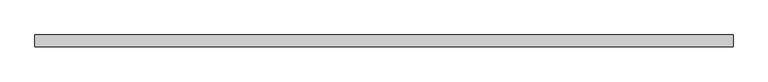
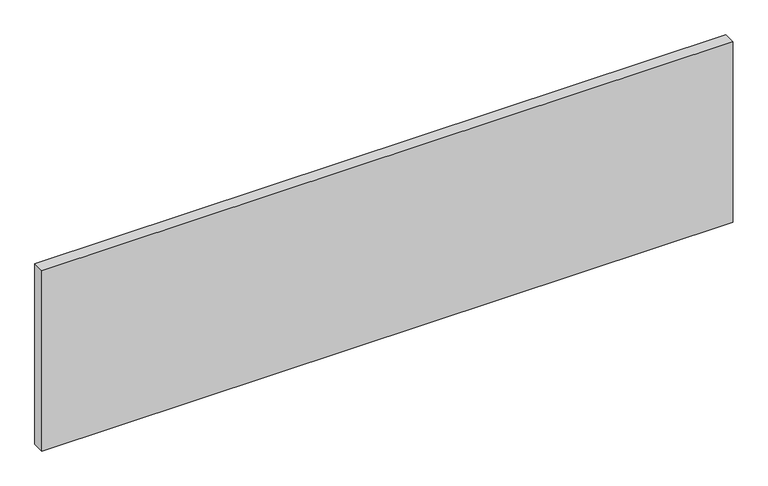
"""IFC4 building model written with IfcOpenShell, lengths in millimetres: plate geometry, Системная панель : С остеклением."""

import ifcopenshell
import ifcopenshell.guid

model = None  # the IFC model being written
_history = None  # IfcOwnerHistory: only IFC2X3 demands one
_inside = {}  # id of a spatial element -> (the spatial element, [elements in it])
_under = {}  # id of a project, library or spatial element -> (it, [spatial elements below it])
_declared = {}  # id of a project -> (the project, [libraries it declares])
_typed = {}  # id of a type object -> (the type object, [elements of that type])
_made_of = {}  # id of a material, layer set ... -> (it, [elements and type objects made of it])


def new_model(schema):
    """Start an empty IFC model of exactly this schema.

    Asked for "IFC4X3", IfcOpenShell would pick the latest addendum, in which some entities
    have other attributes; the version numbers below select the first issue.
    IFC2X3 requires an IfcOwnerHistory on every rooted entity: one is made here for all.
    """
    global model, _history
    if schema == "IFC4X3":
        model = ifcopenshell.file(schema_version=(4, 3, 0, 0))
    else:
        model = ifcopenshell.file(schema=schema)
    _inside.clear()
    _under.clear()
    _declared.clear()
    _typed.clear()
    _made_of.clear()
    _history = None
    if model.schema == "IFC2X3":
        org = make("IfcOrganization", Name="unknown")
        user = make(
            "IfcPersonAndOrganization",
            ThePerson=make("IfcPerson", FamilyName="unknown"),
            TheOrganization=org,
        )
        app = make(
            "IfcApplication",
            ApplicationDeveloper=org,
            Version="unknown",
            ApplicationFullName="unknown",
            ApplicationIdentifier="unknown",
        )
        _history = make(
            "IfcOwnerHistory",
            OwningUser=user,
            OwningApplication=app,
            ChangeAction="ADDED",
            CreationDate=0,
        )
    return model


def make(cls, **values):
    """One entity of the class cls with the attributes given. An attribute that is None is left unset."""
    return model.create_entity(
        cls, **{name: value for name, value in values.items() if value is not None}
    )


def rooted(cls, **values):
    """An entity with a GlobalId (a new one), such as an element, a storey or a relation."""
    return make(cls, GlobalId=ifcopenshell.guid.new(), OwnerHistory=_history, **values)


def si_unit(unit_type, name, prefix=None):
    """IfcSIUnit, for example si_unit("LENGTHUNIT", "METRE", prefix="MILLI")."""
    return make("IfcSIUnit", UnitType=unit_type, Prefix=prefix, Name=name)


def assignment(units):
    """IfcUnitAssignment: the units of a project."""
    return None if units is None else make("IfcUnitAssignment", Units=units)


def point(xyz):
    """IfcCartesianPoint."""
    return None if xyz is None else make("IfcCartesianPoint", Coordinates=xyz)


def direction(xyz):
    """IfcDirection."""
    return None if xyz is None else make("IfcDirection", DirectionRatios=xyz)


def frame(location, z_axis=None, x_axis=None):
    """IfcAxis2Placement3D, a coordinate frame: its origin and axes. An axis left out is left unset."""
    return make(
        "IfcAxis2Placement3D",
        Location=point(location),
        Axis=direction(z_axis),
        RefDirection=direction(x_axis),
    )


def origin():
    """The frame at (0, 0, 0) with its axes left unset."""
    return frame((0.0, 0.0, 0.0))


def origin_with_axes():
    """The frame at (0, 0, 0) with the z axis (0, 0, 1) and the x axis (1, 0, 0) written out."""
    return frame((0.0, 0.0, 0.0), z_axis=(0.0, 0.0, 1.0), x_axis=(1.0, 0.0, 0.0))


def place(relative_to, where):
    """IfcLocalPlacement: puts the frame where relative to a parent placement (None: the world)."""
    return make(
        "IfcLocalPlacement", PlacementRelTo=relative_to, RelativePlacement=where
    )


def context(
    kind, dimensions, precision=None, world=None, true_north=None, identifier=None
):
    """IfcGeometricRepresentationContext, for example the 3D "Model" context."""
    return make(
        "IfcGeometricRepresentationContext",
        ContextIdentifier=identifier,
        ContextType=kind,
        CoordinateSpaceDimension=dimensions,
        Precision=precision,
        WorldCoordinateSystem=world,
        TrueNorth=true_north,
    )


def project(units=None, contexts=None):
    """IfcProject with its units and contexts."""
    return rooted(
        "IfcProject",
        Name="project",
        RepresentationContexts=contexts,
        UnitsInContext=assignment(units),
    )


def spatial(cls, under=None, at=None, **own):
    """A site, building, storey or space (cls), placed at a placement, below another one or the project."""
    s = rooted(cls, ObjectPlacement=at, **own)
    if under is not None:
        _under.setdefault(under.id(), (under, []))[1].append(s)
    return s


def polyline(points):
    """IfcPolyline through the points."""
    return make("IfcPolyline", Points=[point(p) for p in points])


def outline(outer, holes=None, kind="AREA"):
    """IfcArbitraryClosedProfileDef: a profile drawn as a closed curve; with holes, ...WithVoids."""
    if holes is None:
        return make("IfcArbitraryClosedProfileDef", ProfileType=kind, OuterCurve=outer)
    return make(
        "IfcArbitraryProfileDefWithVoids",
        ProfileType=kind,
        OuterCurve=outer,
        InnerCurves=holes,
    )


def extrude(swept, where, along, depth):
    """IfcExtrudedAreaSolid: the profile swept, set in the frame where, extruded along a direction by depth."""
    return make(
        "IfcExtrudedAreaSolid",
        SweptArea=swept,
        Position=where,
        ExtrudedDirection=direction(along),
        Depth=depth,
    )


def shape(context_of_items, identifier, shape_type, items):
    """IfcShapeRepresentation: the items that make up one representation, for example the "Body"."""
    return make(
        "IfcShapeRepresentation",
        ContextOfItems=context_of_items,
        RepresentationIdentifier=identifier,
        RepresentationType=shape_type,
        Items=items,
    )


def source(mapping_origin, context_of_items, identifier, shape_type, items):
    """IfcRepresentationMap: a shape defined once, which mapped items show again and again."""
    return make(
        "IfcRepresentationMap",
        MappingOrigin=mapping_origin,
        MappedRepresentation=shape(context_of_items, identifier, shape_type, items),
    )


def transform(
    local_origin,
    x_axis=None,
    y_axis=None,
    z_axis=None,
    scale=None,
    scale2=None,
    scale3=None,
    uniform=True,
):
    """IfcCartesianTransformationOperator3D, or its non-uniform kind. x_axis, y_axis, z_axis: its Axis1, 2, 3."""
    if uniform:
        return make(
            "IfcCartesianTransformationOperator3D",
            Axis1=direction(x_axis),
            Axis2=direction(y_axis),
            LocalOrigin=point(local_origin),
            Scale=scale,
            Axis3=direction(z_axis),
        )
    return make(
        "IfcCartesianTransformationOperator3DnonUniform",
        Axis1=direction(x_axis),
        Axis2=direction(y_axis),
        LocalOrigin=point(local_origin),
        Scale=scale,
        Axis3=direction(z_axis),
        Scale2=scale2,
        Scale3=scale3,
    )


def mapped(mapping_source, mapping_target):
    """IfcMappedItem: shows the shape of a source again, moved by a transform."""
    return make(
        "IfcMappedItem", MappingSource=mapping_source, MappingTarget=mapping_target
    )


def made_of(thing, what):
    """Note that an element or type object is made of a material, layer set ...; save() writes the relation."""
    if what is not None:
        _made_of.setdefault(what.id(), (what, []))[1].append(thing)
    return thing


def element(
    cls,
    number,
    at=None,
    inside=None,
    cuts=None,
    type_object=None,
    material=None,
    context=None,
    identifier="Body",
    shape_type=None,
    held_by="IfcProductDefinitionShape",
    body=None,
    shapes=None,
    **own,
):
    """One element of the class cls, such as IfcWall. Its Tag is "e" and its number.

    at: its placement. inside: the storey or other place that contains it. cuts: it is an
    opening in that element (IfcRelVoidsElement). A single representation is given by context,
    identifier, shape_type and body (its items); several are given by shapes. held_by: the class
    of the entity that holds the representations. save() writes the other relations.
    """
    e = rooted(cls, Tag="e%d" % number, ObjectPlacement=at, **own)
    if body is not None:
        shapes = [shape(context, identifier, shape_type, body)]
    if shapes is not None:
        e.Representation = make(held_by, Representations=shapes)
    if inside is not None:
        _inside.setdefault(inside.id(), (inside, []))[1].append(e)
    if cuts is not None:
        rooted(
            "IfcRelVoidsElement", RelatingBuildingElement=cuts, RelatedOpeningElement=e
        )
    if type_object is not None:
        _typed.setdefault(type_object.id(), (type_object, []))[1].append(e)
    return made_of(e, material)


def aggregate(whole, parts):
    """IfcRelAggregates: a whole, such as a stair, and the parts it consists of."""
    return rooted("IfcRelAggregates", RelatingObject=whole, RelatedObjects=parts)


def save(model, path):
    """Write the relations noted so far, then the file.

    IfcRelAggregates (storeys below a building ...), IfcRelContainedInSpatialStructure (elements
    in a storey), IfcRelDefinesByType, IfcRelAssociatesMaterial and IfcRelDeclares: one each for
    every whole, place, type object, material and project.
    """
    for whole, parts in _under.values():
        aggregate(whole, parts)
    for where, things in _inside.values():
        rooted(
            "IfcRelContainedInSpatialStructure",
            RelatedElements=things,
            RelatingStructure=where,
        )
    for kind, things in _typed.values():
        rooted("IfcRelDefinesByType", RelatedObjects=things, RelatingType=kind)
    for what, things in _made_of.values():
        rooted("IfcRelAssociatesMaterial", RelatedObjects=things, RelatingMaterial=what)
    for by, libraries in _declared.values():
        rooted("IfcRelDeclares", RelatingContext=by, RelatedDefinitions=libraries)
    model.write(path)


def plate_62a6527e(model_context):
    return source(origin(), model_context, "Body", "SweptSolid", [
        extrude(outline(polyline([(725.0, 24.5), (-725.0, 24.5), (-725.0, 49.5), (725.0, 49.5), (725.0, 24.5)])), origin_with_axes(), (0.0, 0.0, 1.0), 400.0),
    ])


if __name__ == "__main__":
    model = new_model("IFC4")
    model_context = context("Model", 3, world=origin())
    ifc_project = project(units=[si_unit("LENGTHUNIT", "METRE", prefix="MILLI")], contexts=[model_context])
    site = spatial("IfcSite", under=ifc_project)
    building = spatial("IfcBuilding", under=site)
    placement = place(None, origin())
    plate_shape = plate_62a6527e(model_context)
    element("IfcPlate", 1, ObjectType="Системная панель : С остеклением", at=placement, inside=building, context=model_context, shape_type="MappedRepresentation", body=[
        mapped(plate_shape, transform((0.0, 0.0, 0.0), x_axis=(1.0, 0.0, 0.0), y_axis=(0.0, 1.0, 0.0), z_axis=(0.0, 0.0, 1.0))),
    ])
    save(model, "model.ifc")
